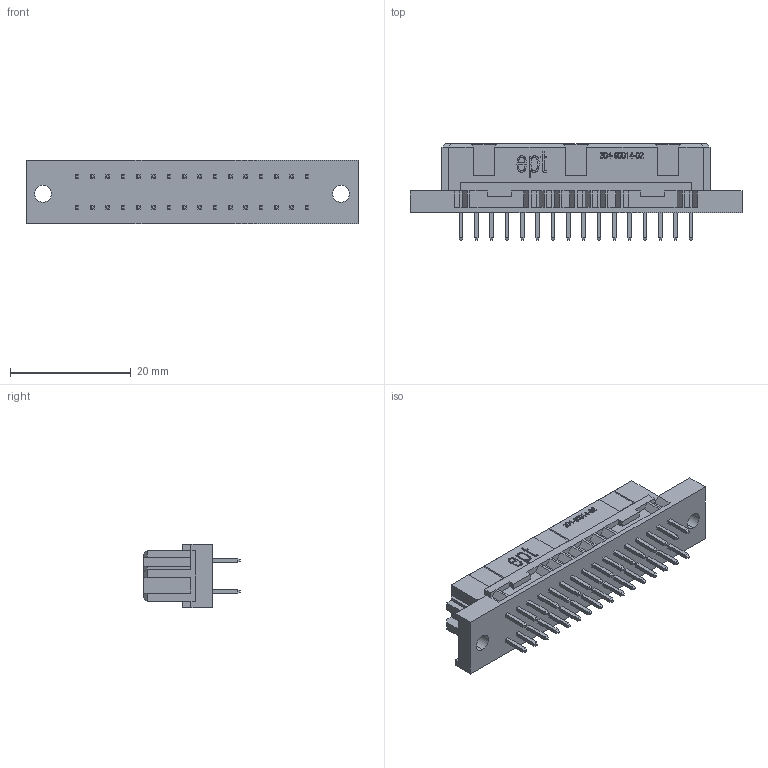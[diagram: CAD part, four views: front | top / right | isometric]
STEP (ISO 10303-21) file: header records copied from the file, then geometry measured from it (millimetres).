
FILE_DESCRIPTION (( 'STEP AP214' ), '1' );
FILE_NAME ('304-90014-02_C_3D.STEP', '2012-06-22T09:20:43', ( ' ' ), ( ' ' ), 'SwSTEP 2.0', 'SolidWorks 2010', '' );
FILE_SCHEMA (( 'AUTOMOTIVE_DESIGN' ));
Length unit declared in the file: millimetre
Products named in the file (1): 304-90014-02_C_3D
Bounding box: 55 x 16.05 x 10.5 mm (x, y, z)
Volume: 4689.8 mm3; surface area: 3231.4 mm2
Topology: 1 solids, 1 shells, 1129 faces, 2689 edges, 1682 vertices
Faces by surface type: plane 1017, bspline 108, cylinder 4
Entity records: 37386 total; most frequent: CARTESIAN_POINT 11961, ORIENTED_EDGE 5378, DIRECTION 4525, EDGE_CURVE 2689, LINE 2465, VECTOR 2465, VERTEX_POINT 1682, EDGE_LOOP 1253
